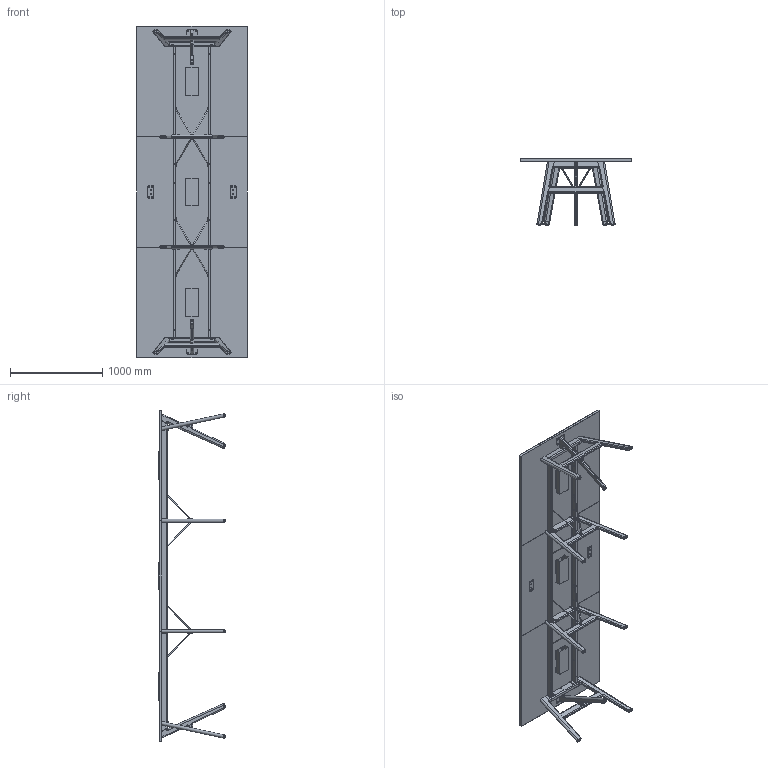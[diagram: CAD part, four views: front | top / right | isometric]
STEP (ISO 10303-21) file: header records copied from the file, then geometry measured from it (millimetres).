
FILE_DESCRIPTION(/* description */ (''),/* implementation_level */ '2;1');
FILE_NAME(/* name */ '',/* time_stamp */ '2026-05-11T12:57:23+09:00',/* author */ (''),/* organization */ (''),/* preprocessor_version */ 'ST-DEVELOPER v20.1',/* originating_system */ 'Autodesk Translation Framework v15.8.0.0',/* authorisation */ '');
FILE_SCHEMA (('AUTOMOTIVE_DESIGN { 1 0 10303 214 3 1 1 }'));
Products named in the file (13): TX-3612; 脚D900; 脚D900_1; NS_M8_20; 天板連結プレート; M6皿ビス; 天板; BOX; 桁; 中間脚; 中間脚_1; JCB-B_M6_15; JCB-B_M6_15 v2(ミラー)
Assembly tree (38 placements, depth 3):
  TX-3612
    脚D900
      NS_M8_20  x4
    脚D900_1
      NS_M8_20  x4
    天板連結プレート
      M6皿ビス  x12
    天板
      BOX  x3
    桁
    中間脚
      JCB-B_M6_15  x2
      JCB-B_M6_15 v2(ミラー)  x2
    中間脚_1
      JCB-B_M6_15  x2
      JCB-B_M6_15 v2(ミラー)  x2
Bounding box: 1200 x 718.5 x 3600 mm (x, y, z)
Volume: 141562797.2 mm3; surface area: 15085770.3 mm2
Topology: 94 solids, 94 shells, 1803 faces, 4418 edges, 2788 vertices
Faces by surface type: plane 911, cylinder 628, bspline 182, cone 52, torus 30
Full cylindrical faces by diameter (mm): 5.6 x8, 6 x24, 6.779 x10, 8 x48, 8.5 x8, 9 x28, 9.3 x10, 10 x48, 11 x4, 13 x8, 15 x4, 16 x8, 17.5 x8, 24 x10
Entity records: 61496 total; most frequent: CARTESIAN_POINT 28039, ORIENTED_EDGE 6822, DIRECTION 6765, EDGE_CURVE 3411, AXIS2_PLACEMENT_3D 2465, VERTEX_POINT 2187, LINE 1835, VECTOR 1835
